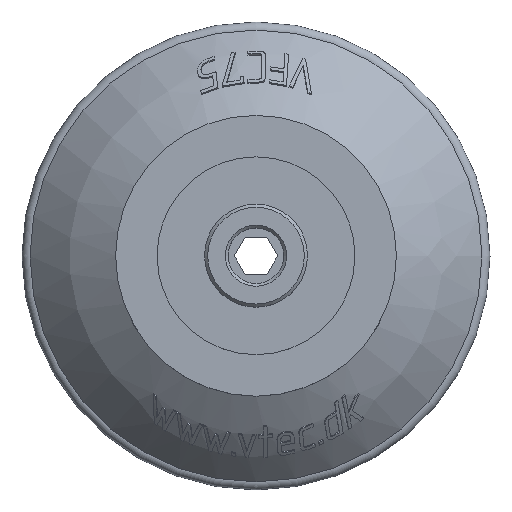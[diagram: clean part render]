
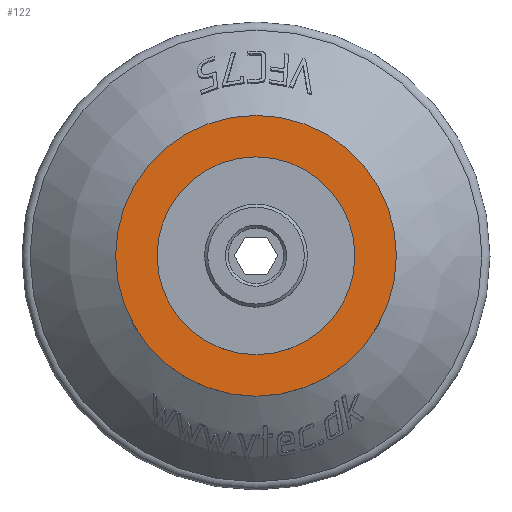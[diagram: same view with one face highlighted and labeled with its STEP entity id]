
A CAD part, top view. The second image highlights one B-rep face of the part: STEP entity #122.
In plain terms, the highlighted planar face has unit normal (0, 0, 1).
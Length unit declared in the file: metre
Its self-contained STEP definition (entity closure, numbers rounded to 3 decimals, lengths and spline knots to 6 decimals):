
#122 = ADVANCED_FACE( '', ( #442, #443 ), #444, .T. );
#442 = FACE_OUTER_BOUND( '', #2327, .T. );
#443 = FACE_BOUND( '', #2328, .T. );
#444 = PLANE( '', #2329 );
#2327 = EDGE_LOOP( '', ( #5957 ) );
#2328 = EDGE_LOOP( '', ( #5958 ) );
#2329 = AXIS2_PLACEMENT_3D( '', #5959, #5960, #5961 );
#5957 = ORIENTED_EDGE( '', *, *, #7399, .T. );
#5958 = ORIENTED_EDGE( '', *, *, #7398, .F. );
#5959 = CARTESIAN_POINT( '', ( 0.01585, 0., 0. ) );
#5960 = DIRECTION( '', ( 0., 0., 1. ) );
#5961 = DIRECTION( '', ( 1., 0., 0. ) );
#7398 = EDGE_CURVE( '', #8175, #8175, #8176, .T. );
#7399 = EDGE_CURVE( '', #8177, #8177, #8178, .T. );
#8175 = VERTEX_POINT( '', #10258 );
#8176 = CIRCLE( '', #10259, 0.01585 );
#8177 = VERTEX_POINT( '', #10260 );
#8178 = CIRCLE( '', #10261, 0.0225 );
#10258 = CARTESIAN_POINT( '', ( 0.01585, 0., 0. ) );
#10259 = AXIS2_PLACEMENT_3D( '', #12789, #12790, #12791 );
#10260 = CARTESIAN_POINT( '', ( 0.0225, 0., 0. ) );
#10261 = AXIS2_PLACEMENT_3D( '', #12792, #12793, #12794 );
#12789 = CARTESIAN_POINT( '', ( 0., 0., 0. ) );
#12790 = DIRECTION( '', ( 0., 0., 1. ) );
#12791 = DIRECTION( '', ( 1., 0., 0. ) );
#12792 = CARTESIAN_POINT( '', ( 0., 0., 0. ) );
#12793 = DIRECTION( '', ( 0., 0., 1. ) );
#12794 = DIRECTION( '', ( 1., 0., 0. ) );
